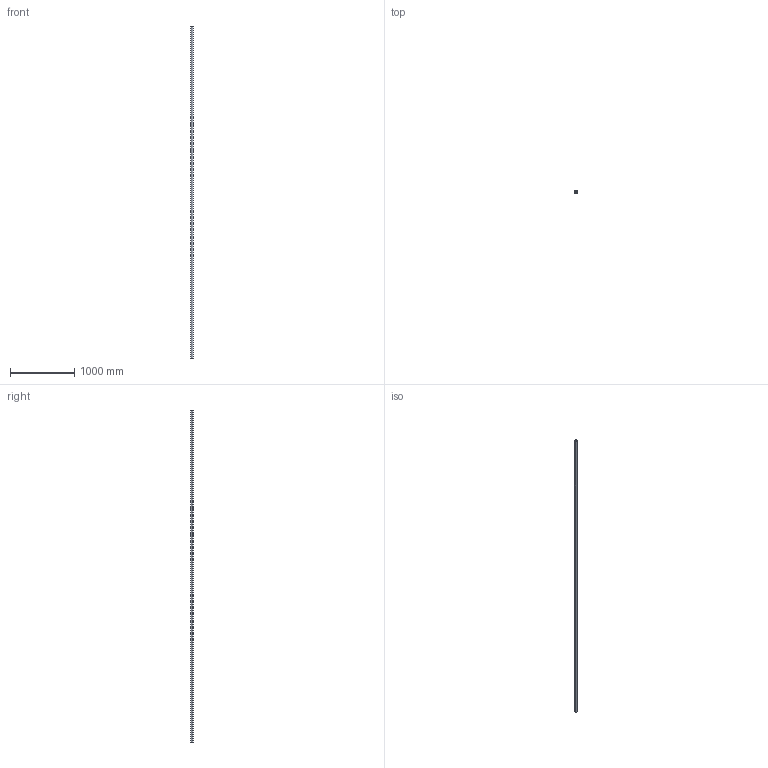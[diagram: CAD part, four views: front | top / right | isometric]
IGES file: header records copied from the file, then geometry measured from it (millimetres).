
Start section: SolidWorks IGES file using analytic representation for surfaces
Global section: file name: C:\Users\IanO\Desktop\L1771_v2\L1771.40_v2\L1771.40_v2_20230705_IGES\L1771.40-5150.igs; native system: SolidWorks 2019; preprocessor: SolidWorks 2019; author: IanO; date: 230705.162948; units: millimetre
Bounding box: 40 x 40 x 5150 mm (x, y, z)
Surface area: 1101467.5 mm2 (no closed solid volume)
Topology: 0 solids, 0 shells, 6 faces, 272 edges, 272 vertices
Faces by surface type: revolution 4, bspline 2
